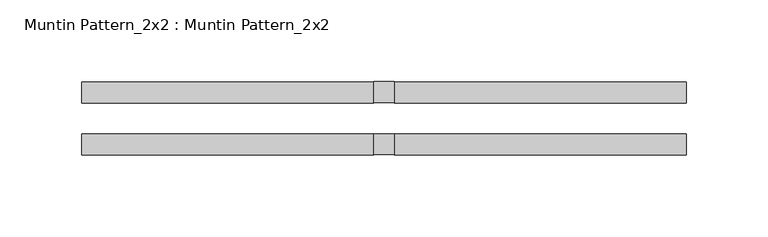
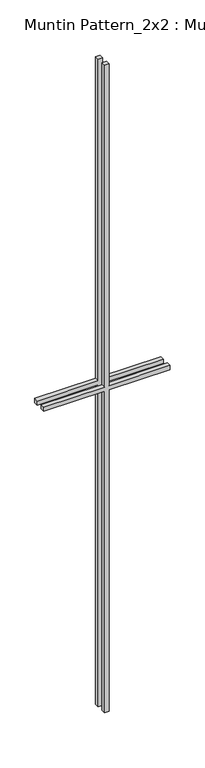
"""IFC4 building model written with IfcOpenShell, lengths in millimetres: proxy geometry, Muntin Pattern_2x2 : Muntin Pattern_2x2."""

from ifc_helpers import new_model, si_unit, frame, origin, place, context, project, spatial, polyline, outline, extrude, source, transform, mapped, element, save


def muntin_pattern_2x2_muntin_pattern_2x2_1d5694cc(model_context):
    return source(origin(), model_context, "Body", "SweptSolid", [
        extrude(outline(polyline([(1003.3, -6.35), (1003.3, -184.15), (990.6, -184.15), (990.6, -6.35), (0.0, -6.35), (0.0, 6.35), (990.6, 6.35), (990.6, 184.15), (1003.3, 184.15), (1003.3, 6.35), (1993.9, 6.35), (1993.9, -6.35), (1003.3, -6.35)])), frame((0.0, -22.225, 0.0), z_axis=(0.0, 1.0, 0.0), x_axis=(0.0, 0.0, 1.0)), (0.0, 0.0, 1.0), 12.7),
        extrude(outline(polyline([(1003.3, -6.35), (1003.3, -184.15), (990.6, -184.15), (990.6, -6.35), (0.0, -6.35), (0.0, 6.35), (990.6, 6.35), (990.6, 184.15), (1003.3, 184.15), (1003.3, 6.35), (1993.9, 6.35), (1993.9, -6.35), (1003.3, -6.35)])), frame((0.0, 9.525, 0.0), z_axis=(0.0, 1.0, 0.0), x_axis=(0.0, 0.0, 1.0)), (0.0, 0.0, 1.0), 12.7),
    ])


if __name__ == "__main__":
    model = new_model("IFC4")
    model_context = context("Model", 3, world=origin())
    ifc_project = project(units=[si_unit("LENGTHUNIT", "METRE", prefix="MILLI")], contexts=[model_context])
    site = spatial("IfcSite", under=ifc_project)
    building = spatial("IfcBuilding", under=site)
    placement = place(None, origin())
    muntin_pattern_2x2_muntin_pattern_2x2_shape = muntin_pattern_2x2_muntin_pattern_2x2_1d5694cc(model_context)
    element("IfcBuildingElementProxy", 1, Name="Muntin Pattern_2x2 : Muntin Pattern_2x2", ObjectType="Muntin Pattern_2x2 : Muntin Pattern_2x2", at=placement, inside=building, context=model_context, shape_type="MappedRepresentation", body=[
        mapped(muntin_pattern_2x2_muntin_pattern_2x2_shape, transform((0.0, 0.0, 0.0), x_axis=(1.0, 0.0, 0.0), y_axis=(0.0, 1.0, 0.0), z_axis=(0.0, 0.0, 1.0))),
    ])
    save(model, "model.ifc")
